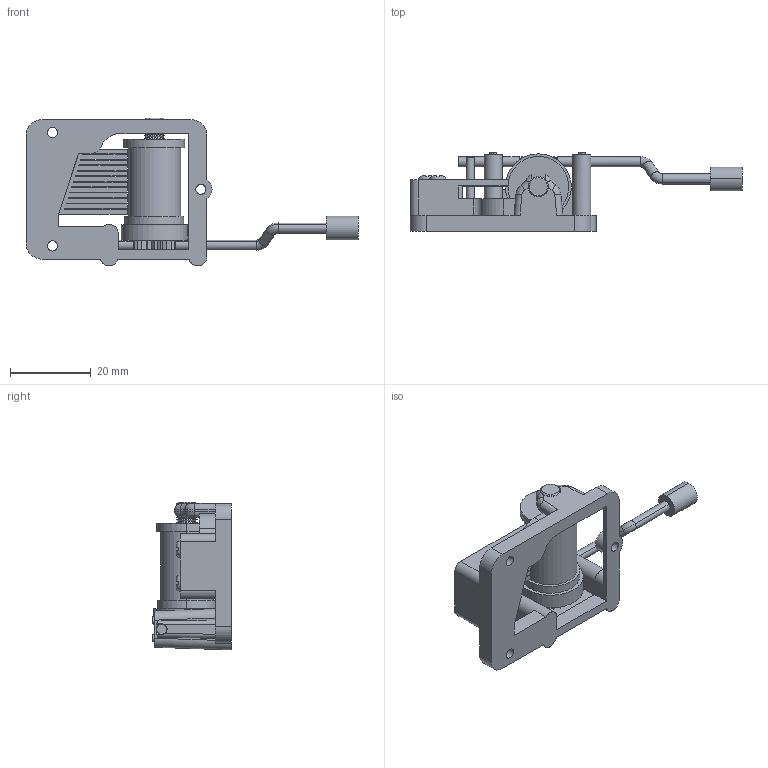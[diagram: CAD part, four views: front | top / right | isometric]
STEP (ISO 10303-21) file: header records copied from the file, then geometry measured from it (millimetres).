
FILE_DESCRIPTION((''),'2;1');
FILE_NAME('HAND-JOB','2024-05-15T',('Lenovo'),(''),'PRO/ENGINEER BY PARAMETRIC TECHNOLOGY CORPORATION, 2008380','PRO/ENGINEER BY PARAMETRIC TECHNOLOGY CORPORATION, 2008380','');
FILE_SCHEMA(('CONFIG_CONTROL_DESIGN'));
Length unit declared in the file: millimetre
Products named in the file (1): HAND-JOB
Bounding box: 82 x 19.5 x 36.54 mm (x, y, z)
Volume: 10987.3 mm3; surface area: 8244.7 mm2
Topology: 3 solids, 3 shells, 411 faces, 1113 edges, 721 vertices
Faces by surface type: plane 234, cylinder 110, cone 38, bspline 16, torus 12, extrusion 1
Entity records: 15060 total; most frequent: CARTESIAN_POINT 4743, ORIENTED_EDGE 2226, DIRECTION 2023, EDGE_CURVE 1113, VECTOR 745, LINE 744, VERTEX_POINT 721, AXIS2_PLACEMENT_3D 639
